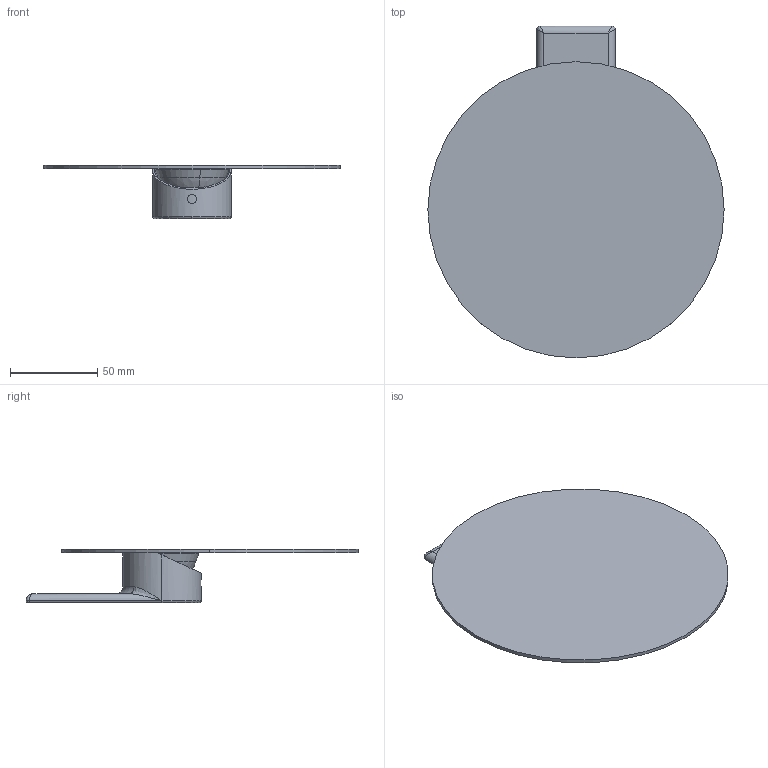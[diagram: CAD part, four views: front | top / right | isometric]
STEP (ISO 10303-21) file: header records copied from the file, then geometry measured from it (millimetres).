
FILE_DESCRIPTION (( 'STEP AP214' ), '1' );
FILE_NAME ('80218010 x architetti.STEP', '2025-03-05T11:06:18', ( '' ), ( '' ), 'SwSTEP 2.0', 'SolidWorks 2020', '' );
FILE_SCHEMA (( 'AUTOMOTIVE_DESIGN' ));
Length unit declared in the file: millimetre
Products named in the file (1): 80218010 x architetti
Bounding box: 170 x 190.5 x 30.5 mm (x, y, z)
Volume: 91933.7 mm3; surface area: 64531.4 mm2
Topology: 1 solids, 2 shells, 52 faces, 121 edges, 70 vertices
Faces by surface type: cylinder 22, plane 8, cone 7, bspline 6, torus 5, sphere 4
Entity records: 2688 total; most frequent: CARTESIAN_POINT 997, DIRECTION 249, ORIENTED_EDGE 234, EDGE_CURVE 117, AXIS2_PLACEMENT_3D 108, VERTEX_POINT 70, CIRCLE 61, EDGE_LOOP 59
